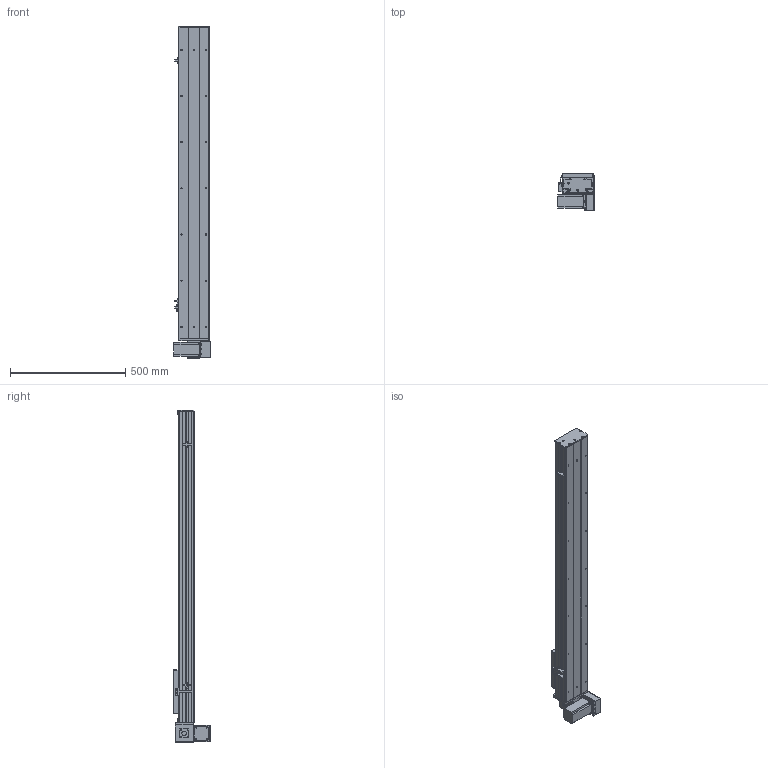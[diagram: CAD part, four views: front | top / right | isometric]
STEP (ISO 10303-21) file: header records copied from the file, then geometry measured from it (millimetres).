
FILE_DESCRIPTION (( 'STEP AP203' ), '1' );
FILE_NAME ('Y135CB-D90-S1050-BM-P400W.STEP', '2020-02-19T01:20:10', ( '微软用户' ), ( '微软中国' ), 'SwSTEP 2.0', 'SolidWorks 2017', '' );
FILE_SCHEMA (( 'CONFIG_CONTROL_DESIGN' ));
Length unit declared in the file: millimetre
Products named in the file (18): 5C--俋欶; 0B-源倛裔啣; C-雄赽釱--; 0B-萇儂楊擘啣; Y10B--々湍喘謫眊--666; san松下电机400不带刹车----; 00B-俋欶BM--; 5CB --掛极耜裔啣-; Y10B-耜蚾蟀諉啣----; C-詩湍揤踡え-陔; Y135CB-耜裔; Y135CB-D90-S1050-BM-P400W; 135CB--詩湍-CE; 135CB---遴掛极.-; Y100-135俋离換覜ん--; 35CB---喘謫眊楊擘啣; Y135C-陔俋离換覜結え-; 0B-埴倛裔啣
Assembly tree (21 placements, depth 2):
  Y135CB-D90-S1050-BM-P400W
    Y135CB-耜裔
    135CB---遴掛极.-
    35CB---喘謫眊楊擘啣
    0B-埴倛裔啣
    0B-源倛裔啣
    0B-萇儂楊擘啣
    san松下电机400不带刹车----
    5CB --掛极耜裔啣-  x2
    C-詩湍揤踡え-陔  x2
    135CB--詩湍-CE
    Y100-135俋离換覜ん--  x3
    Y135C-陔俋离換覜結え-
    5C--俋欶
    C-雄赽釱--
    Y10B--々湍喘謫眊--666
    00B-俋欶BM--
    Y10B-耜蚾蟀諉啣----
Bounding box: 157 x 163.3 x 1438 mm (x, y, z)
Volume: 4515585.2 mm3; surface area: 1760600.2 mm2
Topology: 21 solids, 21 shells, 945 faces, 2527 edges, 1674 vertices
Faces by surface type: cylinder 473, plane 456, cone 16
Entity records: 29349 total; most frequent: DIRECTION 4875, CARTESIAN_POINT 4812, ORIENTED_EDGE 4530, EDGE_CURVE 2265, AXIS2_PLACEMENT_3D 1777, VERTEX_POINT 1502, VECTOR 1321, LINE 1321
